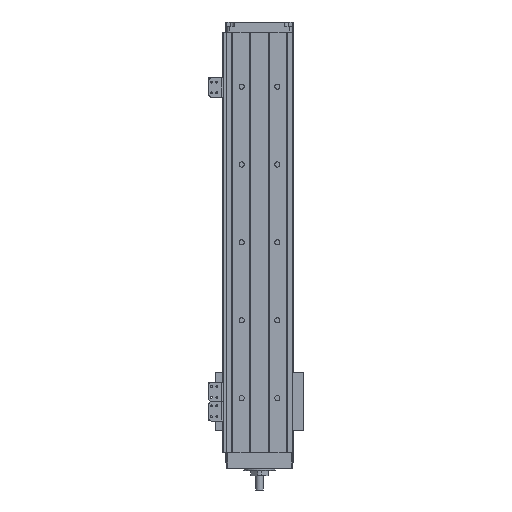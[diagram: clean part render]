
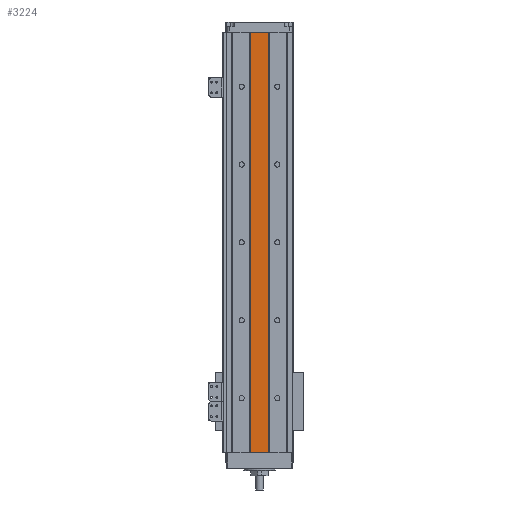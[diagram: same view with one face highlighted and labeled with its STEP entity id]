
A CAD part, front view. The second image highlights one B-rep face of the part: STEP entity #3224.
In plain terms, the highlighted planar face has unit normal (0, -1, 0).
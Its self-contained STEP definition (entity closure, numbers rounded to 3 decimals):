
#1221 = VERTEX_POINT ( 'NONE', #4284 ) ;
#2347 = PLANE ( 'NONE',  #21875 ) ;
#2676 = EDGE_CURVE ( 'NONE', #33494, #15632, #26955, .T. ) ;
#3224 = ADVANCED_FACE ( 'NONE', ( #16577 ), #2347, .F. ) ;
#3411 = EDGE_CURVE ( 'NONE', #21096, #1221, #35860, .T. ) ;
#4284 = CARTESIAN_POINT ( 'NONE',  ( 11.731, -13.462, 540. ) ) ;
#4843 = VECTOR ( 'NONE', #33812, 1000. ) ;
#10251 = LINE ( 'NONE', #11190, #25542 ) ;
#10453 = ORIENTED_EDGE ( 'NONE', *, *, #3411, .F. ) ;
#11066 = DIRECTION ( 'NONE',  ( 0., 0., -1. ) ) ;
#11159 = VECTOR ( 'NONE', #32411, 1000. ) ;
#11190 = CARTESIAN_POINT ( 'NONE',  ( 11.731, -13.462, 540. ) ) ;
#11353 = DIRECTION ( 'NONE',  ( 1., 0., 0. ) ) ;
#13487 = CARTESIAN_POINT ( 'NONE',  ( -12.269, -13.462, 540. ) ) ;
#14940 = CARTESIAN_POINT ( 'NONE',  ( 11.731, -13.462, 0. ) ) ;
#15074 = CARTESIAN_POINT ( 'NONE',  ( -12.269, -13.462, 540. ) ) ;
#15632 = VERTEX_POINT ( 'NONE', #14940 ) ;
#16577 = FACE_OUTER_BOUND ( 'NONE', #26276, .T. ) ;
#17255 = CARTESIAN_POINT ( 'NONE',  ( -12.269, -13.462, 540. ) ) ;
#17495 = LINE ( 'NONE', #13487, #4843 ) ;
#21096 = VERTEX_POINT ( 'NONE', #35217 ) ;
#21875 = AXIS2_PLACEMENT_3D ( 'NONE', #17255, #31282, #37044 ) ;
#22556 = ORIENTED_EDGE ( 'NONE', *, *, #35566, .T. ) ;
#24210 = EDGE_CURVE ( 'NONE', #1221, #15632, #10251, .T. ) ;
#25542 = VECTOR ( 'NONE', #11066, 1000. ) ;
#25678 = CARTESIAN_POINT ( 'NONE',  ( -12.269, -13.462, 0. ) ) ;
#26276 = EDGE_LOOP ( 'NONE', ( #27097, #27779, #10453, #22556 ) ) ;
#26955 = LINE ( 'NONE', #25678, #29664 ) ;
#27097 = ORIENTED_EDGE ( 'NONE', *, *, #2676, .T. ) ;
#27779 = ORIENTED_EDGE ( 'NONE', *, *, #24210, .F. ) ;
#29039 = CARTESIAN_POINT ( 'NONE',  ( -12.269, -13.462, 0. ) ) ;
#29664 = VECTOR ( 'NONE', #11353, 1000. ) ;
#31282 = DIRECTION ( 'NONE',  ( 0., 1., 0. ) ) ;
#32411 = DIRECTION ( 'NONE',  ( 1., 0., 0. ) ) ;
#33494 = VERTEX_POINT ( 'NONE', #29039 ) ;
#33812 = DIRECTION ( 'NONE',  ( 0., 0., -1. ) ) ;
#35217 = CARTESIAN_POINT ( 'NONE',  ( -12.269, -13.462, 540. ) ) ;
#35566 = EDGE_CURVE ( 'NONE', #21096, #33494, #17495, .T. ) ;
#35860 = LINE ( 'NONE', #15074, #11159 ) ;
#37044 = DIRECTION ( 'NONE',  ( 0., 0., 1. ) ) ;
